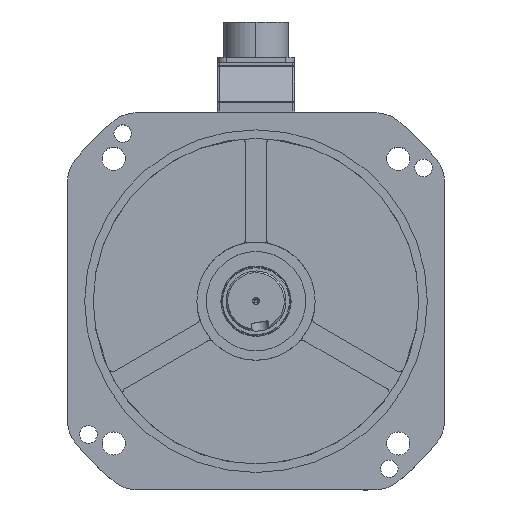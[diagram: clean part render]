
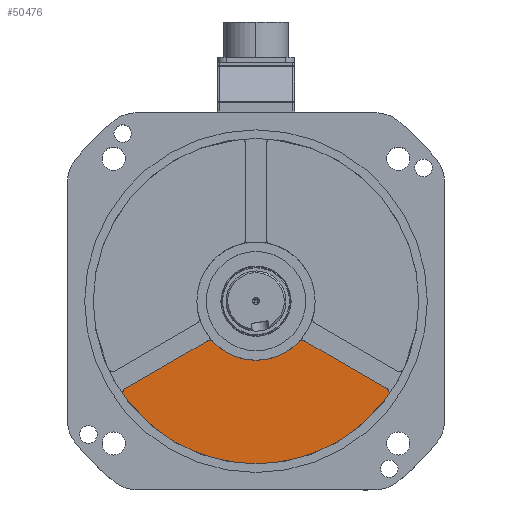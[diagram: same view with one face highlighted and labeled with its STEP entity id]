
A CAD part, top view. The second image highlights one B-rep face of the part: STEP entity #50476.
In plain terms, the highlighted planar face has unit normal (0, 0, 1).
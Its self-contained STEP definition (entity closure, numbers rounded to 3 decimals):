
#1450 = CARTESIAN_POINT ( 'NONE',  ( 28.527, 23.398, 16. ) ) ;
#2213 = DIRECTION ( 'NONE',  ( 1., 0., 0. ) ) ;
#3520 = FACE_OUTER_BOUND ( 'NONE', #48992, .T. ) ;
#3766 = CARTESIAN_POINT ( 'NONE',  ( -74.792, 53.574, 16. ) ) ;
#5809 = CARTESIAN_POINT ( 'NONE',  ( -77.792, 53.574, 16. ) ) ;
#6714 = DIRECTION ( 'NONE',  ( 1., 0., 0. ) ) ;
#7512 = CARTESIAN_POINT ( 'NONE',  ( 77.231, 55.321, 16. ) ) ;
#9958 = CIRCLE ( 'NONE', #26699, 3. ) ;
#10227 = CIRCLE ( 'NONE', #60298, 3. ) ;
#10524 = CARTESIAN_POINT ( 'NONE',  ( 3., 5.196, 16. ) ) ;
#11336 = VECTOR ( 'NONE', #46116, 1000. ) ;
#11435 = DIRECTION ( 'NONE',  ( 1., 0., 0. ) ) ;
#11804 = EDGE_CURVE ( 'NONE', #21626, #68907, #40584, .T. ) ;
#13593 = AXIS2_PLACEMENT_3D ( 'NONE', #3766, #51534, #34804 ) ;
#13978 = CARTESIAN_POINT ( 'NONE',  ( 0., 0., 16. ) ) ;
#14014 = LINE ( 'NONE', #29018, #11336 ) ;
#17444 = EDGE_CURVE ( 'NONE', #49295, #61692, #9958, .T. ) ;
#17543 = DIRECTION ( 'NONE',  ( 0., 0., 1. ) ) ;
#19568 = CARTESIAN_POINT ( 'NONE',  ( 0., 0., 16. ) ) ;
#19873 = CARTESIAN_POINT ( 'NONE',  ( 76.292, 50.976, 16. ) ) ;
#21147 = CIRCLE ( 'NONE', #55634, 3. ) ;
#21626 = VERTEX_POINT ( 'NONE', #58112 ) ;
#21628 = CARTESIAN_POINT ( 'NONE',  ( -27.027, 25.996, 16. ) ) ;
#23846 = ORIENTED_EDGE ( 'NONE', *, *, #44106, .T. ) ;
#24147 = DIRECTION ( 'NONE',  ( 0., 0., -1. ) ) ;
#24452 = EDGE_CURVE ( 'NONE', #55294, #49295, #14014, .T. ) ;
#24615 = EDGE_CURVE ( 'NONE', #21626, #42033, #42263, .T. ) ;
#24752 = ORIENTED_EDGE ( 'NONE', *, *, #24452, .T. ) ;
#25398 = CARTESIAN_POINT ( 'NONE',  ( -76.292, 50.976, 16. ) ) ;
#26699 = AXIS2_PLACEMENT_3D ( 'NONE', #54512, #17543, #6714 ) ;
#29018 = CARTESIAN_POINT ( 'NONE',  ( -3., 5.196, 16. ) ) ;
#29343 = DIRECTION ( 'NONE',  ( 0., 0., 1. ) ) ;
#30015 = DIRECTION ( 'NONE',  ( 1., 0., 0. ) ) ;
#30757 = DIRECTION ( 'NONE',  ( -0.866, 0.5, 0. ) ) ;
#31228 = EDGE_CURVE ( 'NONE', #62218, #61692, #66160, .T. ) ;
#32603 = ORIENTED_EDGE ( 'NONE', *, *, #47648, .T. ) ;
#33598 = CARTESIAN_POINT ( 'NONE',  ( 27.027, 25.996, 16. ) ) ;
#34804 = DIRECTION ( 'NONE',  ( 1., 0., 0. ) ) ;
#35101 = CARTESIAN_POINT ( 'NONE',  ( -77.231, 55.321, 16. ) ) ;
#36327 = VERTEX_POINT ( 'NONE', #40695 ) ;
#36475 = ORIENTED_EDGE ( 'NONE', *, *, #17444, .T. ) ;
#38368 = CIRCLE ( 'NONE', #47276, 34.5 ) ;
#40584 = CIRCLE ( 'NONE', #65057, 3. ) ;
#40695 = CARTESIAN_POINT ( 'NONE',  ( 24.865, 23.917, 16. ) ) ;
#41575 = EDGE_CURVE ( 'NONE', #36327, #68907, #38368, .T. ) ;
#41893 = DIRECTION ( 'NONE',  ( 0., 0., 1. ) ) ;
#42033 = VERTEX_POINT ( 'NONE', #25398 ) ;
#42263 = LINE ( 'NONE', #10524, #55898 ) ;
#43696 = CIRCLE ( 'NONE', #13593, 3. ) ;
#44106 = EDGE_CURVE ( 'NONE', #62218, #65916, #21147, .T. ) ;
#44317 = ORIENTED_EDGE ( 'NONE', *, *, #11804, .T. ) ;
#45419 = DIRECTION ( 'NONE',  ( 1., 0., 0. ) ) ;
#46116 = DIRECTION ( 'NONE',  ( 0.866, 0.5, 0. ) ) ;
#47099 = PLANE ( 'NONE',  #57369 ) ;
#47276 = AXIS2_PLACEMENT_3D ( 'NONE', #19568, #29343, #30015 ) ;
#47456 = DIRECTION ( 'NONE',  ( 1., 0., 0. ) ) ;
#47648 = EDGE_CURVE ( 'NONE', #36327, #55294, #10227, .T. ) ;
#48060 = EDGE_CURVE ( 'NONE', #65916, #42033, #43696, .T. ) ;
#48992 = EDGE_LOOP ( 'NONE', ( #36475, #64067, #23846, #56386, #61577, #44317, #58058, #32603, #24752 ) ) ;
#49295 = VERTEX_POINT ( 'NONE', #19873 ) ;
#50000 = DIRECTION ( 'NONE',  ( 0., 0., 1. ) ) ;
#50476 = ADVANCED_FACE ( 'NONE', ( #3520 ), #47099, .T. ) ;
#51534 = DIRECTION ( 'NONE',  ( 0., 0., 1. ) ) ;
#54001 = CARTESIAN_POINT ( 'NONE',  ( -74.792, 53.574, 16. ) ) ;
#54512 = CARTESIAN_POINT ( 'NONE',  ( 74.792, 53.574, 16. ) ) ;
#55294 = VERTEX_POINT ( 'NONE', #1450 ) ;
#55634 = AXIS2_PLACEMENT_3D ( 'NONE', #54001, #63772, #11435 ) ;
#55898 = VECTOR ( 'NONE', #30757, 1000. ) ;
#56386 = ORIENTED_EDGE ( 'NONE', *, *, #48060, .T. ) ;
#57050 = CARTESIAN_POINT ( 'NONE',  ( -24.865, 23.917, 16. ) ) ;
#57369 = AXIS2_PLACEMENT_3D ( 'NONE', #13978, #41893, #47456 ) ;
#58058 = ORIENTED_EDGE ( 'NONE', *, *, #41575, .F. ) ;
#58112 = CARTESIAN_POINT ( 'NONE',  ( -28.527, 23.398, 16. ) ) ;
#59484 = AXIS2_PLACEMENT_3D ( 'NONE', #60783, #24147, #45419 ) ;
#60298 = AXIS2_PLACEMENT_3D ( 'NONE', #33598, #50000, #2213 ) ;
#60783 = CARTESIAN_POINT ( 'NONE',  ( 0., 0., 16. ) ) ;
#61577 = ORIENTED_EDGE ( 'NONE', *, *, #24615, .F. ) ;
#61692 = VERTEX_POINT ( 'NONE', #7512 ) ;
#62218 = VERTEX_POINT ( 'NONE', #35101 ) ;
#63772 = DIRECTION ( 'NONE',  ( 0., 0., 1. ) ) ;
#64067 = ORIENTED_EDGE ( 'NONE', *, *, #31228, .F. ) ;
#64490 = DIRECTION ( 'NONE',  ( 1., 0., 0. ) ) ;
#65057 = AXIS2_PLACEMENT_3D ( 'NONE', #21628, #65190, #64490 ) ;
#65190 = DIRECTION ( 'NONE',  ( 0., 0., 1. ) ) ;
#65916 = VERTEX_POINT ( 'NONE', #5809 ) ;
#66160 = CIRCLE ( 'NONE', #59484, 95. ) ;
#68907 = VERTEX_POINT ( 'NONE', #57050 ) ;
